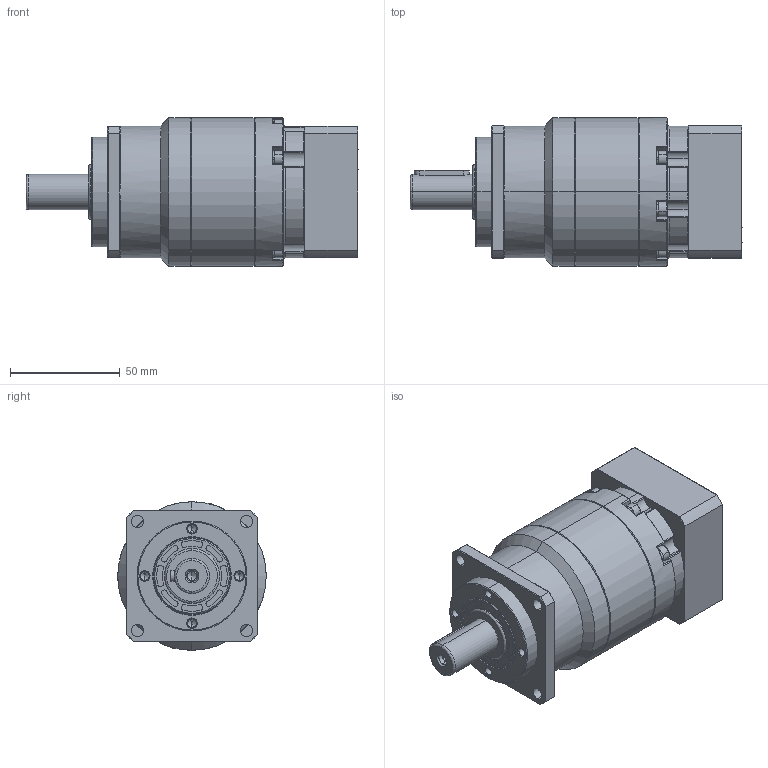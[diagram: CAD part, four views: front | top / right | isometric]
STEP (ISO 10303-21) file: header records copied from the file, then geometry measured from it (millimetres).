
FILE_DESCRIPTION (( 'STEP AP214' ), '1' );
FILE_NAME ('VRB-060-L2-S2-P1 14-50-70-M5.STEP', '2023-08-14T00:49:50', ( '微软用户' ), ( '微软中国' ), 'SwSTEP 2.0', 'SolidWorks 2018', '' );
FILE_SCHEMA (( 'AUTOMOTIVE_DESIGN' ));
Length unit declared in the file: millimetre
Products named in the file (11): 笢潔楊擘 VRB-060俋倛芞; hexagon socket head cap screws gb_GB_FASTENER_SCREWS_HSHCS M5X16-N; 二级齿圈 VRB-060外形图; 萇儂楊擘 VRB-060-D50-M5-70F60H24.5; spring lock washers--normal type gb_GB_FASTENER_WASHER_SW 4; 一级整体太阳轮夹套外形图 VRB-060D14; hex socket set screws with flat point gb_GB_FASTENER_SCREWS_HSFP M10X10-N; 前齿圈加出轴VRB-060外形图; VRB-060-L2-S2-P1 14-50-70-M5; hexagon socket head cap screws gb_GB_FASTENER_SCREWS_HSHCS M4X16-N; hexagon socket head cap screws gb_GB_FASTENER_SCREWS_HSHCS M4X20-N
Assembly tree (31 placements, depth 2):
  VRB-060-L2-S2-P1 14-50-70-M5
    前齿圈加出轴VRB-060外形图
    笢潔楊擘 VRB-060俋倛芞
    萇儂楊擘 VRB-060-D50-M5-70F60H24.5
    一级整体太阳轮夹套外形图 VRB-060D14
    hexagon socket head cap screws gb_GB_FASTENER_SCREWS_HSHCS M5X16-N
    hexagon socket head cap screws gb_GB_FASTENER_SCREWS_HSHCS M4X20-N  x6
    spring lock washers--normal type gb_GB_FASTENER_WASHER_SW 4  x12
    hexagon socket head cap screws gb_GB_FASTENER_SCREWS_HSHCS M4X16-N  x6
    hex socket set screws with flat point gb_GB_FASTENER_SCREWS_HSFP M10X10-N
    二级齿圈 VRB-060外形图
Bounding box: 151 x 67.5 x 67.5 mm (x, y, z)
Volume: 283970 mm3; surface area: 81917.4 mm2
Topology: 33 solids, 33 shells, 1090 faces, 2673 edges, 1655 vertices
Faces by surface type: plane 409, cylinder 400, cone 217, bspline 64
Entity records: 23629 total; most frequent: CARTESIAN_POINT 5516, DIRECTION 3867, ORIENTED_EDGE 3602, EDGE_CURVE 1801, AXIS2_PLACEMENT_3D 1543, VERTEX_POINT 1139, CIRCLE 823, EDGE_LOOP 820
